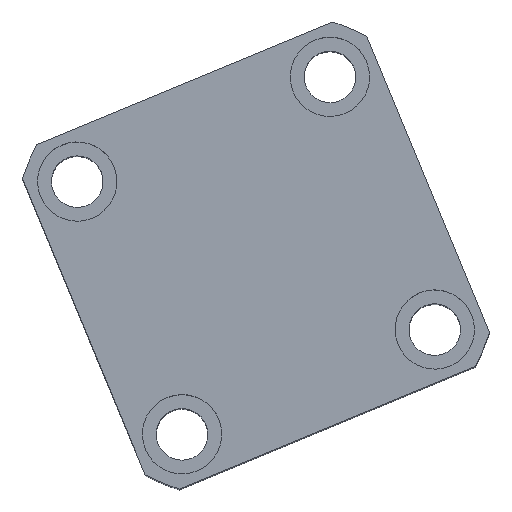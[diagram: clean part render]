
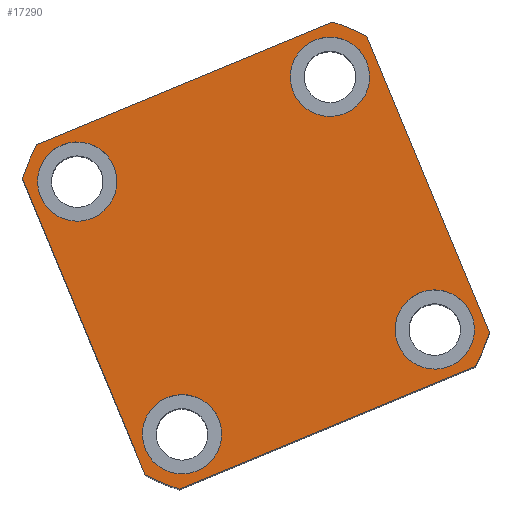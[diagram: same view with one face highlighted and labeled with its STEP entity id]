
A CAD part, top view. The second image highlights one B-rep face of the part: STEP entity #17290.
In plain terms, the highlighted planar face has unit normal (0, 0, 1) as drawn and (0, 0, -1) by its records, which use the part's own axes.
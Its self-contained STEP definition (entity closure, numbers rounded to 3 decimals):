
#103 = ORIENTED_EDGE ( 'NONE', *, *, #11556, .F. ) ;
#263 = CARTESIAN_POINT ( 'NONE',  ( 0., 0., 0. ) ) ;
#306 = CIRCLE ( 'NONE', #9287, 10. ) ;
#501 = CARTESIAN_POINT ( 'NONE',  ( 34.5, -34.5, 0. ) ) ;
#545 = AXIS2_PLACEMENT_3D ( 'NONE', #6062, #18154, #7813 ) ;
#600 = EDGE_CURVE ( 'NONE', #10496, #8011, #22212, .T. ) ;
#1007 = CARTESIAN_POINT ( 'NONE',  ( 24.5, 34.5, 0. ) ) ;
#1301 = ORIENTED_EDGE ( 'NONE', *, *, #1863, .F. ) ;
#1546 = DIRECTION ( 'NONE',  ( -1., 0., 0. ) ) ;
#1644 = VERTEX_POINT ( 'NONE', #2620 ) ;
#1649 = CARTESIAN_POINT ( 'NONE',  ( 34.5, -34.5, 0. ) ) ;
#1790 = ORIENTED_EDGE ( 'NONE', *, *, #18509, .F. ) ;
#1863 = EDGE_CURVE ( 'NONE', #11540, #10496, #12207, .T. ) ;
#1901 = DIRECTION ( 'NONE',  ( 0., 0., -1. ) ) ;
#1970 = DIRECTION ( 'NONE',  ( 1., 0., 0. ) ) ;
#2210 = DIRECTION ( 'NONE',  ( -1., 0., 0. ) ) ;
#2220 = CARTESIAN_POINT ( 'NONE',  ( 47., -40.435, 0. ) ) ;
#2306 = AXIS2_PLACEMENT_3D ( 'NONE', #17718, #7381, #19475 ) ;
#2314 = VECTOR ( 'NONE', #17266, 1000. ) ;
#2357 = VECTOR ( 'NONE', #6568, 1000. ) ;
#2620 = CARTESIAN_POINT ( 'NONE',  ( -47., -40.435, 0. ) ) ;
#3382 = DIRECTION ( 'NONE',  ( -1., 0., 0. ) ) ;
#3434 = CARTESIAN_POINT ( 'NONE',  ( -44.5, -34.5, 0. ) ) ;
#3449 = LINE ( 'NONE', #6491, #2357 ) ;
#3580 = ORIENTED_EDGE ( 'NONE', *, *, #18787, .F. ) ;
#4071 = EDGE_CURVE ( 'NONE', #16844, #8237, #4638, .T. ) ;
#4140 = VERTEX_POINT ( 'NONE', #20577 ) ;
#4206 = EDGE_CURVE ( 'NONE', #8237, #16844, #8726, .T. ) ;
#4446 = CARTESIAN_POINT ( 'NONE',  ( 24.5, -34.5, 0. ) ) ;
#4517 = DIRECTION ( 'NONE',  ( 0., 0., -1. ) ) ;
#4638 = CIRCLE ( 'NONE', #12155, 10. ) ;
#4821 = ORIENTED_EDGE ( 'NONE', *, *, #7374, .F. ) ;
#4890 = CIRCLE ( 'NONE', #2306, 62. ) ;
#5005 = CARTESIAN_POINT ( 'NONE',  ( 34.5, 34.5, 0. ) ) ;
#5341 = CARTESIAN_POINT ( 'NONE',  ( 40.435, 47., 0. ) ) ;
#5554 = ORIENTED_EDGE ( 'NONE', *, *, #4206, .F. ) ;
#5616 = CIRCLE ( 'NONE', #545, 10. ) ;
#5938 = CARTESIAN_POINT ( 'NONE',  ( -40.435, -47., 0. ) ) ;
#5967 = CARTESIAN_POINT ( 'NONE',  ( 0., 0., 0. ) ) ;
#6045 = EDGE_CURVE ( 'NONE', #1644, #17813, #4890, .T. ) ;
#6062 = CARTESIAN_POINT ( 'NONE',  ( -34.5, 34.5, 0. ) ) ;
#6082 = EDGE_CURVE ( 'NONE', #21996, #20376, #13516, .T. ) ;
#6204 = EDGE_CURVE ( 'NONE', #20376, #21996, #306, .T. ) ;
#6285 = DIRECTION ( 'NONE',  ( -1., 0., 0. ) ) ;
#6491 = CARTESIAN_POINT ( 'NONE',  ( 47., 47., 0. ) ) ;
#6558 = DIRECTION ( 'NONE',  ( 0., 0., 1. ) ) ;
#6568 = DIRECTION ( 'NONE',  ( 0., 1., 0. ) ) ;
#6629 = ORIENTED_EDGE ( 'NONE', *, *, #6082, .F. ) ;
#6752 = DIRECTION ( 'NONE',  ( -1., 0., 0. ) ) ;
#6994 = FACE_OUTER_BOUND ( 'NONE', #12844, .T. ) ;
#7075 = CARTESIAN_POINT ( 'NONE',  ( -47., 47., 0. ) ) ;
#7374 = EDGE_CURVE ( 'NONE', #9810, #7400, #20283, .T. ) ;
#7381 = DIRECTION ( 'NONE',  ( 0., 0., 1. ) ) ;
#7400 = VERTEX_POINT ( 'NONE', #12954 ) ;
#7714 = DIRECTION ( 'NONE',  ( 1., 0., 0. ) ) ;
#7762 = CARTESIAN_POINT ( 'NONE',  ( -34.5, -34.5, 0. ) ) ;
#7813 = DIRECTION ( 'NONE',  ( -1., 0., 0. ) ) ;
#8011 = VERTEX_POINT ( 'NONE', #10687 ) ;
#8118 = AXIS2_PLACEMENT_3D ( 'NONE', #501, #12566, #2210 ) ;
#8142 = AXIS2_PLACEMENT_3D ( 'NONE', #20152, #11763, #10023 ) ;
#8237 = VERTEX_POINT ( 'NONE', #1007 ) ;
#8564 = CIRCLE ( 'NONE', #18415, 10. ) ;
#8726 = CIRCLE ( 'NONE', #15611, 10. ) ;
#8730 = CARTESIAN_POINT ( 'NONE',  ( 47., 40.435, 0. ) ) ;
#8834 = AXIS2_PLACEMENT_3D ( 'NONE', #263, #12329, #1970 ) ;
#8869 = VECTOR ( 'NONE', #20478, 1000. ) ;
#9287 = AXIS2_PLACEMENT_3D ( 'NONE', #1649, #13713, #3382 ) ;
#9323 = AXIS2_PLACEMENT_3D ( 'NONE', #5967, #18057, #7714 ) ;
#9492 = DIRECTION ( 'NONE',  ( -1., 0., 0. ) ) ;
#9574 = CARTESIAN_POINT ( 'NONE',  ( -24.5, 34.5, 0. ) ) ;
#9810 = VERTEX_POINT ( 'NONE', #3434 ) ;
#9902 = CIRCLE ( 'NONE', #8834, 62. ) ;
#10023 = DIRECTION ( 'NONE',  ( 1., 0., 0. ) ) ;
#10122 = CARTESIAN_POINT ( 'NONE',  ( -47., -47., 0. ) ) ;
#10200 = EDGE_CURVE ( 'NONE', #17813, #4140, #22092, .T. ) ;
#10496 = VERTEX_POINT ( 'NONE', #5341 ) ;
#10687 = CARTESIAN_POINT ( 'NONE',  ( -40.435, 47., 0. ) ) ;
#10724 = ORIENTED_EDGE ( 'NONE', *, *, #600, .F. ) ;
#10926 = EDGE_LOOP ( 'NONE', ( #4821, #3580 ) ) ;
#11266 = EDGE_LOOP ( 'NONE', ( #6629, #18964 ) ) ;
#11299 = ORIENTED_EDGE ( 'NONE', *, *, #4071, .F. ) ;
#11540 = VERTEX_POINT ( 'NONE', #8730 ) ;
#11556 = EDGE_CURVE ( 'NONE', #4140, #12349, #9902, .T. ) ;
#11763 = DIRECTION ( 'NONE',  ( 0., 0., 1. ) ) ;
#11817 = AXIS2_PLACEMENT_3D ( 'NONE', #18487, #6558, #18645 ) ;
#11888 = AXIS2_PLACEMENT_3D ( 'NONE', #7762, #19853, #9492 ) ;
#11911 = DIRECTION ( 'NONE',  ( 0., 0., -1. ) ) ;
#12039 = CARTESIAN_POINT ( 'NONE',  ( -44.5, 34.5, 0. ) ) ;
#12155 = AXIS2_PLACEMENT_3D ( 'NONE', #5005, #17093, #6752 ) ;
#12198 = CARTESIAN_POINT ( 'NONE',  ( -47., 47., 0. ) ) ;
#12207 = CIRCLE ( 'NONE', #8142, 62. ) ;
#12250 = CARTESIAN_POINT ( 'NONE',  ( 34.5, 34.5, 0. ) ) ;
#12329 = DIRECTION ( 'NONE',  ( 0., 0., 1. ) ) ;
#12349 = VERTEX_POINT ( 'NONE', #2220 ) ;
#12566 = DIRECTION ( 'NONE',  ( 0., 0., -1. ) ) ;
#12695 = EDGE_CURVE ( 'NONE', #20178, #15310, #8564, .T. ) ;
#12844 = EDGE_LOOP ( 'NONE', ( #1301, #16925, #103, #20579, #16401, #22031, #18556, #10724 ) ) ;
#12898 = EDGE_CURVE ( 'NONE', #16343, #1644, #21261, .T. ) ;
#12954 = CARTESIAN_POINT ( 'NONE',  ( -24.5, -34.5, 0. ) ) ;
#13012 = VECTOR ( 'NONE', #6285, 1000. ) ;
#13516 = CIRCLE ( 'NONE', #8118, 10. ) ;
#13713 = DIRECTION ( 'NONE',  ( 0., 0., -1. ) ) ;
#13963 = DIRECTION ( 'NONE',  ( -1., 0., 0. ) ) ;
#14117 = ORIENTED_EDGE ( 'NONE', *, *, #12695, .F. ) ;
#14846 = CARTESIAN_POINT ( 'NONE',  ( -34.5, -34.5, 0. ) ) ;
#15144 = PLANE ( 'NONE',  #11817 ) ;
#15158 = EDGE_CURVE ( 'NONE', #8011, #16343, #18511, .T. ) ;
#15310 = VERTEX_POINT ( 'NONE', #9574 ) ;
#15611 = AXIS2_PLACEMENT_3D ( 'NONE', #12250, #1901, #13963 ) ;
#16170 = FACE_BOUND ( 'NONE', #16717, .T. ) ;
#16343 = VERTEX_POINT ( 'NONE', #18508 ) ;
#16401 = ORIENTED_EDGE ( 'NONE', *, *, #6045, .F. ) ;
#16603 = DIRECTION ( 'NONE',  ( -1., 0., 0. ) ) ;
#16717 = EDGE_LOOP ( 'NONE', ( #14117, #1790 ) ) ;
#16844 = VERTEX_POINT ( 'NONE', #19342 ) ;
#16925 = ORIENTED_EDGE ( 'NONE', *, *, #18966, .F. ) ;
#17093 = DIRECTION ( 'NONE',  ( 0., 0., -1. ) ) ;
#17239 = CIRCLE ( 'NONE', #17913, 10. ) ;
#17254 = FACE_BOUND ( 'NONE', #10926, .T. ) ;
#17266 = DIRECTION ( 'NONE',  ( 0., -1., 0. ) ) ;
#17290 = ADVANCED_FACE ( 'NONE', ( #16170, #17254, #20784, #21855, #6994 ), #15144, .F. ) ;
#17607 = CARTESIAN_POINT ( 'NONE',  ( 44.5, -34.5, 0. ) ) ;
#17718 = CARTESIAN_POINT ( 'NONE',  ( 0., 0., 0. ) ) ;
#17813 = VERTEX_POINT ( 'NONE', #5938 ) ;
#17913 = AXIS2_PLACEMENT_3D ( 'NONE', #14846, #4517, #16603 ) ;
#18057 = DIRECTION ( 'NONE',  ( 0., 0., 1. ) ) ;
#18154 = DIRECTION ( 'NONE',  ( 0., 0., -1. ) ) ;
#18325 = EDGE_LOOP ( 'NONE', ( #5554, #11299 ) ) ;
#18415 = AXIS2_PLACEMENT_3D ( 'NONE', #22254, #11911, #1546 ) ;
#18487 = CARTESIAN_POINT ( 'NONE',  ( 0., 0., 0. ) ) ;
#18508 = CARTESIAN_POINT ( 'NONE',  ( -47., 40.435, 0. ) ) ;
#18509 = EDGE_CURVE ( 'NONE', #15310, #20178, #5616, .T. ) ;
#18511 = CIRCLE ( 'NONE', #9323, 62. ) ;
#18556 = ORIENTED_EDGE ( 'NONE', *, *, #15158, .F. ) ;
#18645 = DIRECTION ( 'NONE',  ( 1., 0., 0. ) ) ;
#18787 = EDGE_CURVE ( 'NONE', #7400, #9810, #17239, .T. ) ;
#18964 = ORIENTED_EDGE ( 'NONE', *, *, #6204, .F. ) ;
#18966 = EDGE_CURVE ( 'NONE', #12349, #11540, #3449, .T. ) ;
#19342 = CARTESIAN_POINT ( 'NONE',  ( 44.5, 34.5, 0. ) ) ;
#19475 = DIRECTION ( 'NONE',  ( 1., 0., 0. ) ) ;
#19853 = DIRECTION ( 'NONE',  ( 0., 0., -1. ) ) ;
#20152 = CARTESIAN_POINT ( 'NONE',  ( 0., 0., 0. ) ) ;
#20178 = VERTEX_POINT ( 'NONE', #12039 ) ;
#20283 = CIRCLE ( 'NONE', #11888, 10. ) ;
#20376 = VERTEX_POINT ( 'NONE', #17607 ) ;
#20478 = DIRECTION ( 'NONE',  ( 1., 0., 0. ) ) ;
#20577 = CARTESIAN_POINT ( 'NONE',  ( 40.435, -47., 0. ) ) ;
#20579 = ORIENTED_EDGE ( 'NONE', *, *, #10200, .F. ) ;
#20784 = FACE_BOUND ( 'NONE', #11266, .T. ) ;
#21261 = LINE ( 'NONE', #7075, #2314 ) ;
#21855 = FACE_BOUND ( 'NONE', #18325, .T. ) ;
#21996 = VERTEX_POINT ( 'NONE', #4446 ) ;
#22031 = ORIENTED_EDGE ( 'NONE', *, *, #12898, .F. ) ;
#22092 = LINE ( 'NONE', #10122, #8869 ) ;
#22212 = LINE ( 'NONE', #12198, #13012 ) ;
#22254 = CARTESIAN_POINT ( 'NONE',  ( -34.5, 34.5, 0. ) ) ;
